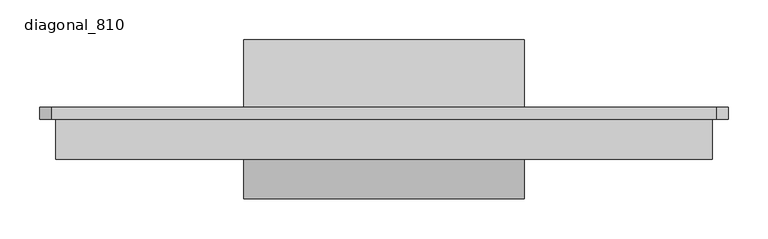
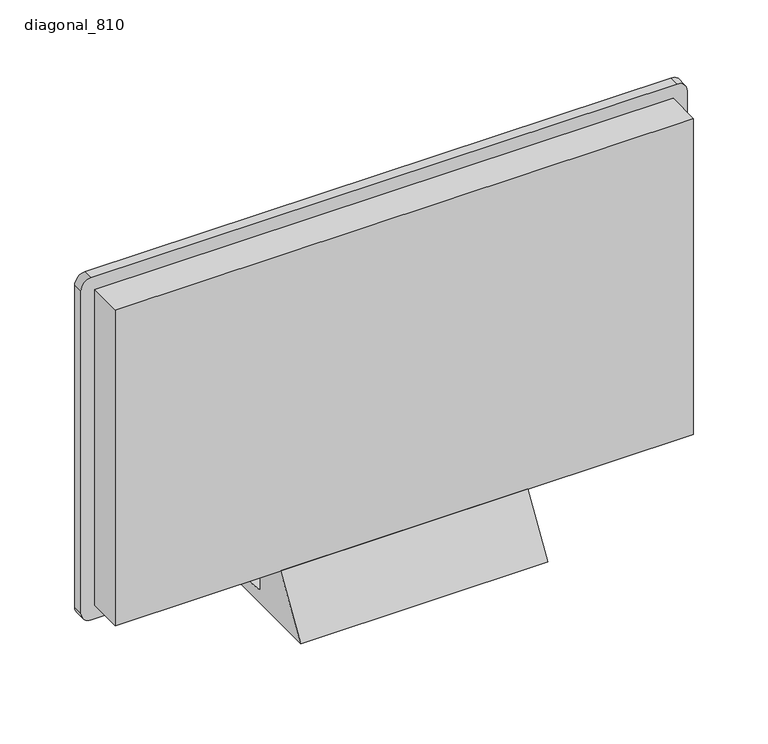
"""IFC4 building model written with IfcOpenShell, lengths in millimetres: proxy geometry, Eq_TV : diagonal_810."""

from ifc_helpers import new_model, si_unit, point, frame, frame_2d, origin, place, context, project, spatial, polyline, circle_curve, trimmed, segment, composite_curve, outline, extrude, source, transform, mapped, element, save


def diagonal_810_88a9d531(model_context):
    return source(origin(), model_context, "Body", "SweptSolid", [
        extrude(outline(polyline([(51.4613764, 80.0), (51.4613764, 20.0), (151.4613764, 10.0), (151.4613764, 0.0), (-48.5386236, 0.0), (1.4613764, 80.0), (51.4613764, 80.0)])), frame((-180.4346678, 0.0, 0.0), z_axis=(1.0, 0.0, 0.0), x_axis=(0.0, 1.0, 0.0)), (0.0, 0.0, 1.0), 352.9803073),
        extrude(outline(polyline([(409.0357931, 51.4613764), (409.0357931, 1.4613764), (-416.9248214, 1.4613764), (-416.9248214, 51.4613764), (409.0357931, 51.4613764)])), frame((0.0, 0.0, 80.0), z_axis=(0.0, 0.0, 1.0), x_axis=(1.0, 0.0, 0.0)), (0.0, 0.0, 1.0), 477.1392838),
        extrude(outline(composite_curve([segment(polyline([(577.1392838, 414.0357931), (577.1392838, -421.9248214)]), True, "CONTINUOUS"), segment(trimmed(circle_curve(frame_2d((562.1392838, -421.9248214)), 15.0), [point((577.1392838, -421.9248214))], [point((562.1392838, -436.9248214))], False, "CARTESIAN"), True, "CONTINUOUS"), segment(polyline([(562.1392838, -436.9248214), (75.0, -436.9248214)]), True, "CONTINUOUS"), segment(trimmed(circle_curve(frame_2d((75.0, -421.9248214)), 15.0), [point((75.0, -436.9248214))], [point((60.0, -421.9248214))], False, "CARTESIAN"), True, "CONTINUOUS"), segment(polyline([(60.0, -421.9248214), (60.0, 414.0357931)]), True, "CONTINUOUS"), segment(trimmed(circle_curve(frame_2d((75.0, 414.0357931)), 15.0), [point((60.0, 414.0357931))], [point((75.0, 429.0357931))], False, "CARTESIAN"), True, "CONTINUOUS"), segment(polyline([(75.0, 429.0357931), (562.1392838, 429.0357931)]), True, "CONTINUOUS"), segment(trimmed(circle_curve(frame_2d((562.1392838, 414.0357931)), 15.0), [point((562.1392838, 429.0357931))], [point((577.1392838, 414.0357931))], False, "CARTESIAN"), True, "CONTINUOUS")], self_intersect=False), holes=[polyline([(557.1392838, 409.0357931), (80.0, 409.0357931), (80.0, -416.9248214), (557.1392838, -416.9248214), (557.1392838, 409.0357931)])]), frame((0.0, 51.4613764, 0.0), z_axis=(0.0, 1.0, 0.0), x_axis=(0.0, 0.0, 1.0)), (0.0, 0.0, 1.0), 15.0),
    ])


if __name__ == "__main__":
    model = new_model("IFC4")
    model_context = context("Model", 3, world=origin())
    ifc_project = project(units=[si_unit("LENGTHUNIT", "METRE", prefix="MILLI")], contexts=[model_context])
    site = spatial("IfcSite", under=ifc_project)
    building = spatial("IfcBuilding", under=site)
    placement = place(None, origin())
    diagonal_810_shape = diagonal_810_88a9d531(model_context)
    element("IfcBuildingElementProxy", 1, Name="Eq_TV : diagonal_810", ObjectType="Eq_TV : diagonal_810", at=placement, inside=building, context=model_context, shape_type="MappedRepresentation", body=[
        mapped(diagonal_810_shape, transform((0.0, 0.0, 0.0), x_axis=(1.0, 0.0, 0.0), y_axis=(0.0, 1.0, 0.0), z_axis=(0.0, 0.0, 1.0))),
    ])
    save(model, "model.ifc")
